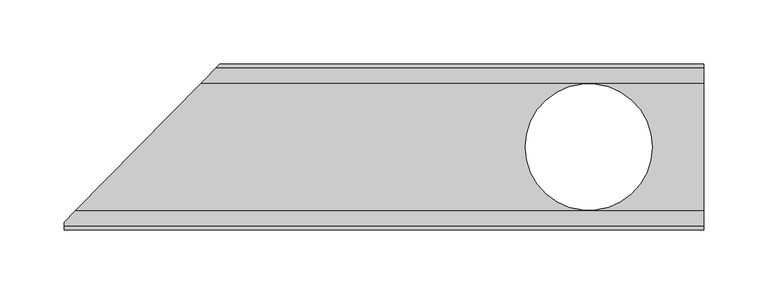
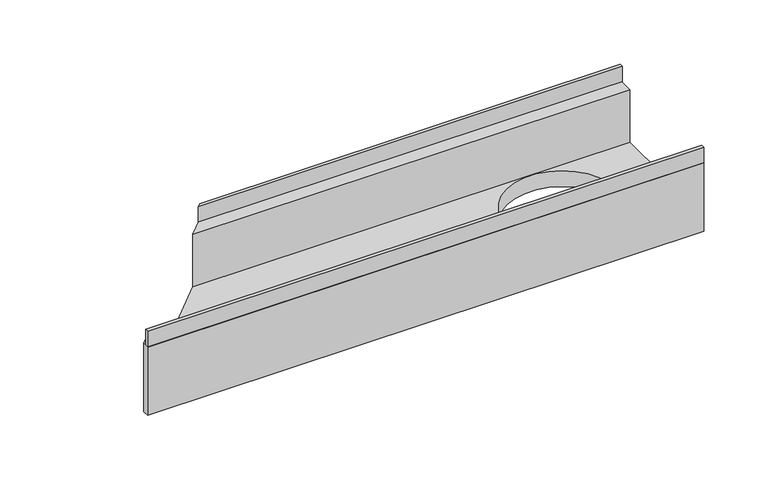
"""IFC4 building model written with IfcOpenShell, lengths in millimetres: sanitary terminal geometry, PF_ST_Slabdrain_H100K & H100KS_channels_USA_ACO : H100KS-8 Constant Depth Channel with SS edge rail."""

from ifc_helpers import new_model, si_unit, frame, origin, place, context, project, spatial, polyline, circle_curve, outline, extrude, source, transform, mapped, element, save
from ifc_brep_helpers import plane_surface, revolved_surface, advanced_brep


def sanitary_terminal_daf5be28(model_context):
    return source(origin(), model_context, "Body", "SolidModel", [
        advanced_brep(
        [(-1105.7456554, 65.0, -15.0), (-1105.7456554, 49.9996414, -15.0), (-1105.7456554, 49.9996414, -65.0), (-1105.7456554, -49.9996414, -65.0), (-1105.7456554, -49.9996414, -15.0), (-1105.7456554, -65.0, -15.0), (-1105.7456554, -65.0, -80.0), (-1105.7456554, 65.0, -80.0), (-1605.6176554, -65.0, -80.0), (-1605.6176554, -65.0, -15.0), (-1605.6176554, -58.8943556, -15.0), (-1605.6176554, -58.8943556, -80.0), (-1483.8670112, 65.0, -15.0), (-1498.6082951, 49.9991605, -15.0), (-1596.8762533, -49.9990402, -15.0), (-1547.7423333, 0.0, -80.0), (-1483.8670112, 65.0, -80.0), (-1245.2456554, 0.0, -80.0), (-1146.2456554, 0.0, -80.0), (-1498.6082951, 49.9991605, -65.0), (-1547.7423333, 0.0, -65.0), (-1596.8762533, -49.9990402, -65.0), (-1146.2456554, 0.0, -65.0), (-1245.2456554, 0.0, -65.0)],
        [
            (0, 1),
            (1, 2),
            (2, 3),
            (3, 4),
            (4, 5),
            (5, 6),
            (6, 7),
            (7, 0),
            (8, 9),
            (9, 10),
            (10, 11),
            (11, 8),
            (0, 12),
            (12, 13),
            (13, 1),
            (4, 14),
            (14, 10),
            (9, 5),
            (8, 6),
            (11, 15),
            (15, 16),
            (16, 7),
            (17, 18, circle_curve(frame((-1195.7456554, 0.0, -80.0), z_axis=(0.0, 0.0, 1.0), x_axis=(1.0, 0.0, 0.0)), 49.5)),
            (18, 17, circle_curve(frame((-1195.7456554, 0.0, -80.0), z_axis=(0.0, 0.0, 1.0), x_axis=(1.0, 0.0, 0.0)), 49.5)),
            (16, 12),
            (13, 19),
            (19, 2),
            (19, 20),
            (20, 21),
            (21, 3),
            (22, 23, circle_curve(frame((-1195.7456554, 0.0, -65.0), z_axis=(0.0, 0.0, -1.0), x_axis=(1.0, 0.0, 0.0)), 49.5)),
            (23, 22, circle_curve(frame((-1195.7456554, 0.0, -65.0), z_axis=(0.0, 0.0, -1.0), x_axis=(1.0, 0.0, 0.0)), 49.5)),
            (21, 14),
            (22, 18),
            (17, 23),
            (20, 15),
        ],
        [
            plane_surface(frame((-1105.7456554, 0.0, -43.75), z_axis=(1.0, 0.0, 0.0), x_axis=(0.0, -1.0, 0.0))),
            plane_surface(frame((-1605.6176554, 0.0, -43.75), z_axis=(-1.0, 0.0, 0.0), x_axis=(0.0, -1.0, 0.0))),
            plane_surface(frame((-1605.6176554, 57.4995148, -15.0), z_axis=(0.0, 0.0, 1.0), x_axis=(0.0, -1.0, 0.0))),
            plane_surface(frame((-1605.6176554, -57.4995148, -15.0), z_axis=(0.0, 0.0, 1.0), x_axis=(0.0, -1.0, 0.0))),
            plane_surface(frame((-1605.6176554, -65.0, -47.5), z_axis=(0.0, -1.0, 0.0), x_axis=(0.0, 0.0, -1.0))),
            plane_surface(frame((-1605.6176554, 0.0, -80.0), z_axis=(0.0, 0.0, -1.0), x_axis=(0.0, 1.0, 0.0))),
            plane_surface(frame((-1605.6176554, 65.0, -47.5), z_axis=(0.0, 1.0, 0.0), x_axis=(0.0, 0.0, 1.0))),
            plane_surface(frame((-1605.6176554, 49.9990295, -40.0), z_axis=(1.2240527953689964e-06, -0.9999999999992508, 0.0), x_axis=(0.0, 0.0, -1.0))),
            plane_surface(frame((-1605.6176554, 0.0, -65.0), z_axis=(0.0, 0.0, 1.0), x_axis=(0.0, -1.0, 0.0))),
            plane_surface(frame((-1605.6176554, -49.9990295, -40.0), z_axis=(1.2240527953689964e-06, 0.9999999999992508, 0.0), x_axis=(0.0, 0.0, 1.0))),
            revolved_surface(polyline([(-1146.2456554, 0.0, -80.0), (-1146.2456554, 0.0, -65.0)]), (-1195.7456554, 0.0, 0.0), (0.0, 0.0, -1.0)),
            plane_surface(frame((-1547.7423333, 0.0, 200.0), z_axis=(-0.71325044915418, 0.7009092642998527, 0.0), x_axis=(-0.7009092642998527, -0.71325044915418, 0.0))),
            plane_surface(frame((-1547.7423333, 0.0, 200.0), z_axis=(-0.7132504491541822, 0.7009092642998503, 0.0), x_axis=(0.7009092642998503, 0.7132504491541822, 0.0))),
        ],
        [
            (0, [[1, 2, 3, 4, 5, 6, 7, 8]]),
            (1, [[9, 10, 11, 12]]),
            (2, [[-1, 13, 14, 15]]),
            (3, [[-5, 16, 17, -10, 18]]),
            (4, [[-6, -18, -9, 19]]),
            (5, [[-7, -19, -12, 20, 21, 22], [23, 24]]),
            (6, [[-8, -22, 25, -13]]),
            (7, [[-2, -15, 26, 27]]),
            (8, [[-3, -27, 28, 29, 30], [31, 32]]),
            (9, [[-4, -30, 33, -16]]),
            (10, [[34, -23, 35, -31]]),
            (10, [[-34, -32, -35, -24]]),
            (11, [[36, -20, -11, -17, -33, -29]]),
            (12, [[-36, -28, -26, -14, -25, -21]]),
        ],
    ),
        extrude(outline(polyline([(-1105.7456554, 65.0), (-1105.7456554, 62.0), (-1486.815103, 62.0), (-1483.8670112, 65.0), (-1105.7456554, 65.0)])), frame((0.0, 0.0, -15.0), z_axis=(0.0, 0.0, 1.0), x_axis=(1.0, 0.0, 0.0)), (0.0, 0.0, 1.0), 15.0),
        extrude(outline(polyline([(-1105.7456554, -62.0), (-1105.7456554, -65.0), (-1605.6176554, -65.0), (-1605.6176554, -62.0), (-1105.7456554, -62.0)])), frame((0.0, 0.0, -15.0), z_axis=(0.0, 0.0, 1.0), x_axis=(1.0, 0.0, 0.0)), (0.0, 0.0, 1.0), 15.0),
    ])


if __name__ == "__main__":
    model = new_model("IFC4")
    model_context = context("Model", 3, world=origin())
    ifc_project = project(units=[si_unit("LENGTHUNIT", "METRE", prefix="MILLI")], contexts=[model_context])
    site = spatial("IfcSite", under=ifc_project)
    building = spatial("IfcBuilding", under=site)
    placement = place(None, origin())
    sanitary_terminal_shape = sanitary_terminal_daf5be28(model_context)
    element("IfcSanitaryTerminal", 1, ObjectType="PF_ST_Slabdrain_H100K & H100KS_channels_USA_ACO : H100KS-8 Constant Depth Channel with SS edge rail", at=placement, inside=building, context=model_context, shape_type="MappedRepresentation", body=[
        mapped(sanitary_terminal_shape, transform((0.0, 0.0, 0.0), x_axis=(1.0, 0.0, 0.0), y_axis=(0.0, 1.0, 0.0), z_axis=(0.0, 0.0, 1.0))),
    ])
    save(model, "model.ifc")
